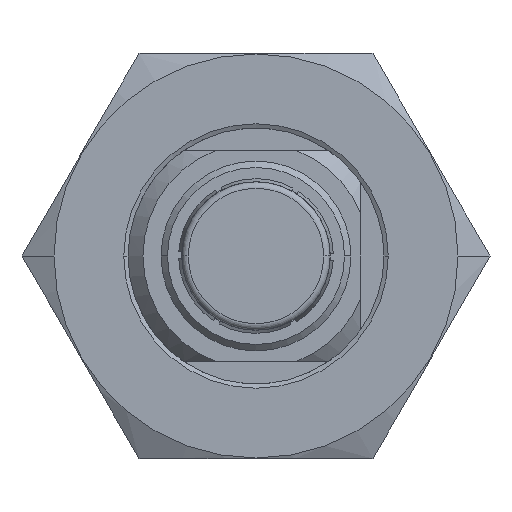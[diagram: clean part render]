
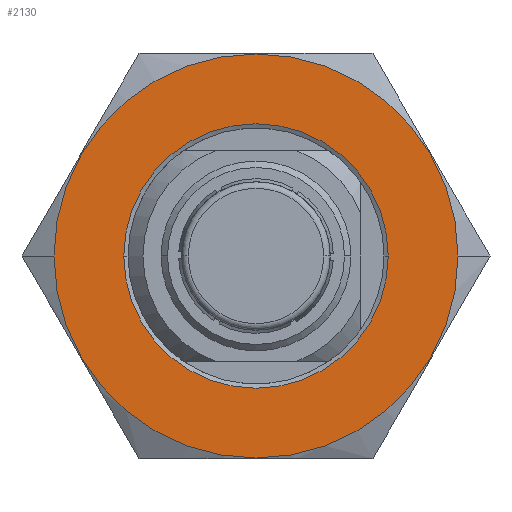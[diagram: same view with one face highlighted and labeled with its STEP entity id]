
A CAD part, front view. The second image highlights one B-rep face of the part: STEP entity #2130.
In plain terms, the highlighted planar face has unit normal (0, -1, 0) as drawn and (-1, 0, 0) by its records, which use the part's own axes.
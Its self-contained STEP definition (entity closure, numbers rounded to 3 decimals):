
#1677=CARTESIAN_POINT('',(0.,0.,0.));
#1678=DIRECTION('',(1.,0.,0.));
#1679=DIRECTION('',(0.,1.,0.));
#1680=AXIS2_PLACEMENT_3D('',#1677,#1678,#1679);
#1685=CARTESIAN_POINT('',(0.,0.,0.));
#1686=DIRECTION('',(1.,0.,0.));
#1687=DIRECTION('',(0.,-1.,0.));
#1688=AXIS2_PLACEMENT_3D('',#1685,#1686,#1687);
#1693=CARTESIAN_POINT('',(0.,0.,0.));
#1694=DIRECTION('',(1.,0.,0.));
#1695=DIRECTION('',(0.,1.,0.));
#1696=AXIS2_PLACEMENT_3D('',#1693,#1694,#1695);
#1701=CARTESIAN_POINT('',(0.,0.,0.));
#1702=DIRECTION('',(1.,0.,0.));
#1703=DIRECTION('',(0.,-1.,0.));
#1704=AXIS2_PLACEMENT_3D('',#1701,#1702,#1703);
#2077=CARTESIAN_POINT('',(0.,9.47,0.));
#2078=CARTESIAN_POINT('',(0.,-9.47,0.));
#2079=VERTEX_POINT('',#2077);
#2080=VERTEX_POINT('',#2078);
#2105=CARTESIAN_POINT('',(0.,6.2,0.));
#2106=CARTESIAN_POINT('',(0.,-6.2,0.));
#2107=VERTEX_POINT('',#2105);
#2108=VERTEX_POINT('',#2106);
#2113=CARTESIAN_POINT('',(0.,0.,0.));
#2114=DIRECTION('',(1.,0.,0.));
#2115=DIRECTION('',(0.,-1.,0.));
#2116=AXIS2_PLACEMENT_3D('',#2113,#2114,#2115);
#2117=PLANE('',#2116);
#2119=ORIENTED_EDGE('',*,*,#2118,.T.);
#2121=ORIENTED_EDGE('',*,*,#2120,.T.);
#2122=EDGE_LOOP('',(#2119,#2121));
#2123=FACE_OUTER_BOUND('',#2122,.F.);
#2125=ORIENTED_EDGE('',*,*,#2124,.F.);
#2127=ORIENTED_EDGE('',*,*,#2126,.F.);
#2128=EDGE_LOOP('',(#2125,#2127));
#2129=FACE_BOUND('',#2128,.F.);
#1681=CIRCLE('',#1680,9.47);
#1689=CIRCLE('',#1688,9.47);
#1697=CIRCLE('',#1696,6.2);
#1705=CIRCLE('',#1704,6.2);
#2118=EDGE_CURVE('',#2079,#2080,#1681,.T.);
#2120=EDGE_CURVE('',#2080,#2079,#1689,.T.);
#2124=EDGE_CURVE('',#2107,#2108,#1697,.T.);
#2126=EDGE_CURVE('',#2108,#2107,#1705,.T.);
#2130=ADVANCED_FACE('',(#2123,#2129),#2117,.F.);
